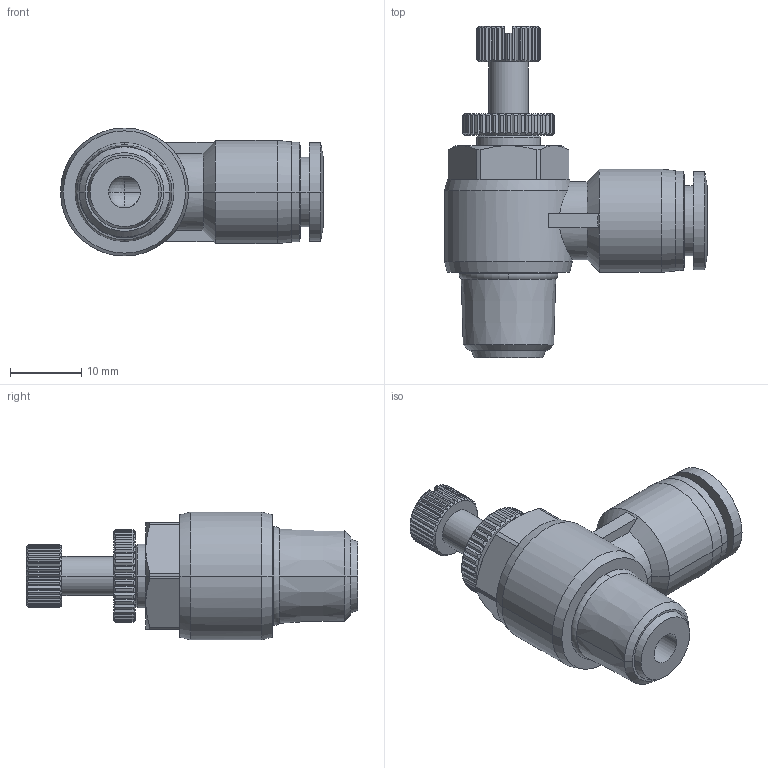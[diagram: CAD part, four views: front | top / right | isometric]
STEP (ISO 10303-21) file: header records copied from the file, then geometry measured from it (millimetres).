
FILE_DESCRIPTION (( 'STEP AP203' ), '1' );
FILE_NAME ('SCL08-02.STEP', '2020-05-12T15:36:16', ( '' ), ( '' ), 'SwSTEP 2.0', 'SolidWorks 2019', '' );
FILE_SCHEMA (( 'CONFIG_CONTROL_DESIGN' ));
Length unit declared in the file: millimetre
Products named in the file (1): SCL08-02
Bounding box: 37 x 46.6 x 18 mm (x, y, z)
Volume: 8060 mm3; surface area: 4531.4 mm2
Topology: 1 solids, 1 shells, 418 faces, 1027 edges, 621 vertices
Faces by surface type: plane 187, cone 114, cylinder 111, torus 4, sphere 2
Entity records: 12124 total; most frequent: CARTESIAN_POINT 2995, ORIENTED_EDGE 2046, DIRECTION 1871, EDGE_CURVE 1023, AXIS2_PLACEMENT_3D 771, VERTEX_POINT 619, EDGE_LOOP 432, ADVANCED_FACE 418
